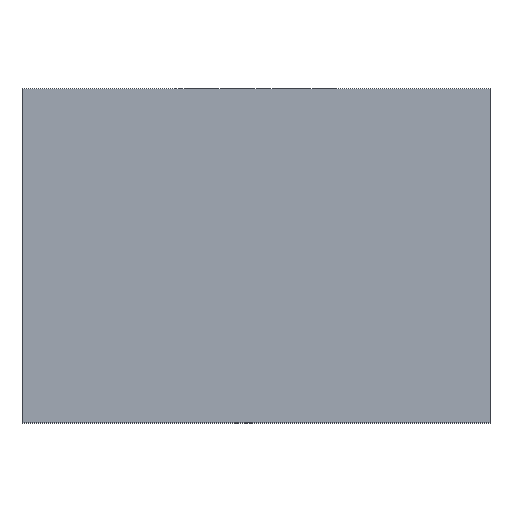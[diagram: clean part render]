
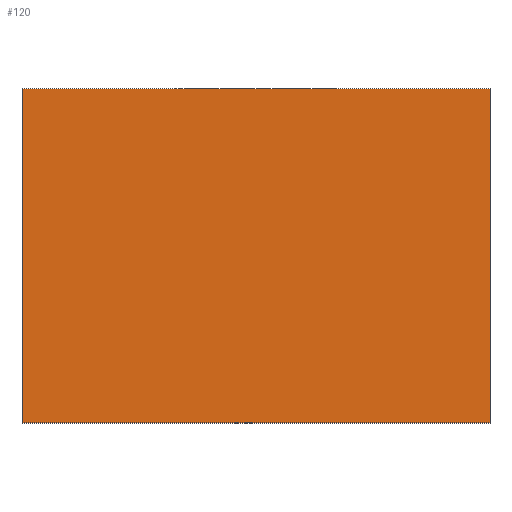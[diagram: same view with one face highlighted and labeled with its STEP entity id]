
A CAD part, top view. The second image highlights one B-rep face of the part: STEP entity #120.
In plain terms, the highlighted planar face has unit normal (0, 0, 1).
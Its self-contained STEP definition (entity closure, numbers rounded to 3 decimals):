
#2 = CARTESIAN_POINT ( 'NONE',  ( 63., 0., 12.5 ) ) ;
#58 = VECTOR ( 'NONE', #873, 1000. ) ;
#67 = DIRECTION ( 'NONE',  ( 0., 0., -1. ) ) ;
#74 = AXIS2_PLACEMENT_3D ( 'NONE', #971, #67, #419 ) ;
#77 = VECTOR ( 'NONE', #122, 1000. ) ;
#120 = ADVANCED_FACE ( 'NONE', ( #1150 ), #604, .F. ) ;
#122 = DIRECTION ( 'NONE',  ( -1., 0., 0. ) ) ;
#128 = LINE ( 'NONE', #398, #426 ) ;
#141 = CARTESIAN_POINT ( 'NONE',  ( 0., 45., 12.5 ) ) ;
#147 = CARTESIAN_POINT ( 'NONE',  ( 63., 0., 12.5 ) ) ;
#165 = EDGE_CURVE ( 'NONE', #728, #302, #554, .T. ) ;
#194 = ORIENTED_EDGE ( 'NONE', *, *, #266, .T. ) ;
#228 = CARTESIAN_POINT ( 'NONE',  ( 0., 45., 12.5 ) ) ;
#266 = EDGE_CURVE ( 'NONE', #302, #651, #128, .T. ) ;
#302 = VERTEX_POINT ( 'NONE', #566 ) ;
#325 = ORIENTED_EDGE ( 'NONE', *, *, #704, .T. ) ;
#398 = CARTESIAN_POINT ( 'NONE',  ( 0., 0., 12.5 ) ) ;
#419 = DIRECTION ( 'NONE',  ( -1., 0., 0. ) ) ;
#426 = VECTOR ( 'NONE', #1032, 1000. ) ;
#471 = ORIENTED_EDGE ( 'NONE', *, *, #920, .T. ) ;
#543 = VECTOR ( 'NONE', #840, 1000. ) ;
#554 = LINE ( 'NONE', #1009, #543 ) ;
#566 = CARTESIAN_POINT ( 'NONE',  ( 0., 0., 12.5 ) ) ;
#604 = PLANE ( 'NONE',  #74 ) ;
#651 = VERTEX_POINT ( 'NONE', #2 ) ;
#704 = EDGE_CURVE ( 'NONE', #763, #728, #953, .T. ) ;
#709 = EDGE_LOOP ( 'NONE', ( #1146, #194, #471, #325 ) ) ;
#728 = VERTEX_POINT ( 'NONE', #228 ) ;
#763 = VERTEX_POINT ( 'NONE', #770 ) ;
#770 = CARTESIAN_POINT ( 'NONE',  ( 63., 45., 12.5 ) ) ;
#840 = DIRECTION ( 'NONE',  ( 0., -1., 0. ) ) ;
#873 = DIRECTION ( 'NONE',  ( 0., 1., 0. ) ) ;
#920 = EDGE_CURVE ( 'NONE', #651, #763, #1055, .T. ) ;
#953 = LINE ( 'NONE', #141, #77 ) ;
#971 = CARTESIAN_POINT ( 'NONE',  ( 0., 0., 12.5 ) ) ;
#1009 = CARTESIAN_POINT ( 'NONE',  ( 0., 0., 12.5 ) ) ;
#1032 = DIRECTION ( 'NONE',  ( 1., 0., 0. ) ) ;
#1055 = LINE ( 'NONE', #147, #58 ) ;
#1146 = ORIENTED_EDGE ( 'NONE', *, *, #165, .T. ) ;
#1150 = FACE_OUTER_BOUND ( 'NONE', #709, .T. ) ;
